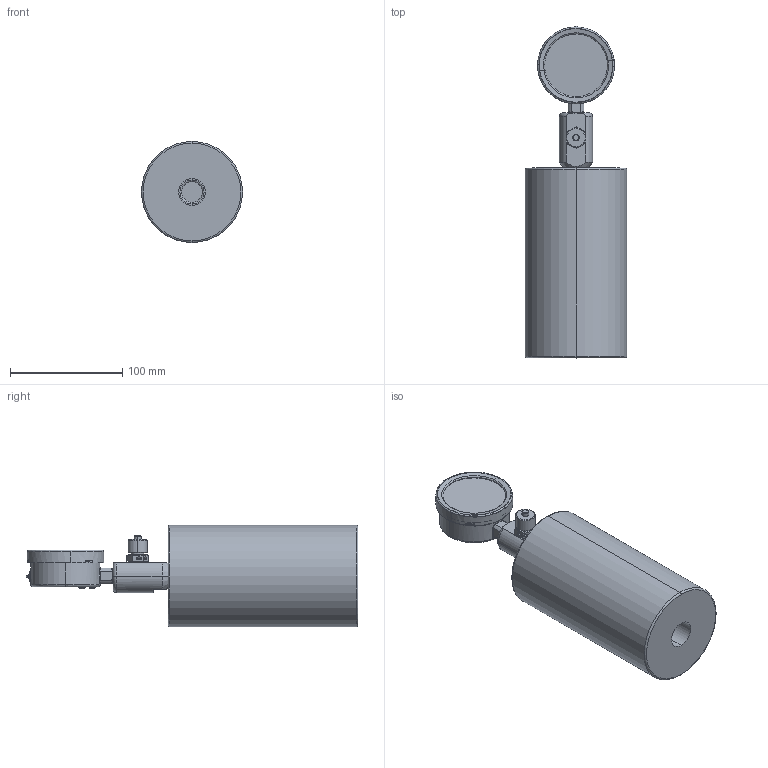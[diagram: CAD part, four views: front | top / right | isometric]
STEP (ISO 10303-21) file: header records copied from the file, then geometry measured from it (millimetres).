
FILE_DESCRIPTION (( 'STEP AP214' ), '1' );
FILE_NAME ('U003A01X1-PD (DGA).STEP', '2025-04-10T08:53:23', ( '' ), ( '' ), 'SwSTEP 2.0', 'SolidWorks 2024', '' );
FILE_SCHEMA (( 'AUTOMOTIVE_DESIGN' ));
Length unit declared in the file: millimetre
Products named in the file (1): U003A01X1-PD (DGA)
Bounding box: 90 x 295.42 x 90 mm (x, y, z)
Surface area: 113724.7 mm2 (no closed solid volume)
Topology: 0 solids, 19 shells, 790 faces, 2564 edges, 1732 vertices
Faces by surface type: plane 295, bspline 187, cylinder 176, torus 63, cone 59, sphere 10
Entity records: 60222 total; most frequent: CARTESIAN_POINT 31208, ORIENTED_EDGE 4332, DIRECTION 3502, EDGE_CURVE 2562, VERTEX_POINT 1732, LINE 1336, VECTOR 1336, AXIS2_PLACEMENT_3D 1083
